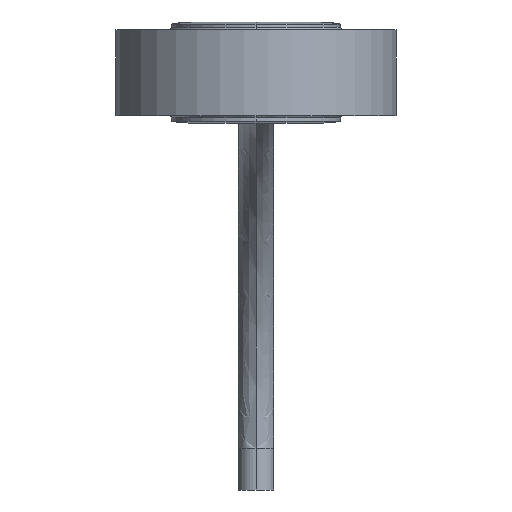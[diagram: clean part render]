
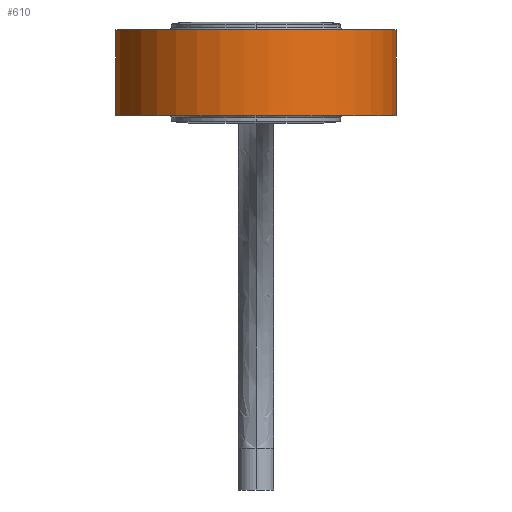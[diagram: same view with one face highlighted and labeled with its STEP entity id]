
A CAD part, front view. The second image highlights one B-rep face of the part: STEP entity #610.
In plain terms, the highlighted free-form (B-spline) face has degree [10, 1] with [11, 2] control points.
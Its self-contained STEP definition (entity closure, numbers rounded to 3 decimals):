
#49=DIRECTION('',(0.,0.,-1.));
#50=VECTOR('',#49,2.788);
#51=CARTESIAN_POINT('',(-3.25,11.344,3.438));
#52=LINE('',#51,#50);
#53=DIRECTION('',(0.,0.,-1.));
#54=VECTOR('',#53,2.788);
#55=CARTESIAN_POINT('',(3.25,11.344,3.438));
#56=LINE('',#55,#54);
#67=DIRECTION('',(0.,0.,-1.));
#68=VECTOR('',#67,2.788);
#69=CARTESIAN_POINT('',(3.25,11.344,7.85));
#70=LINE('',#69,#68);
#71=DIRECTION('',(0.,0.,-1.));
#72=VECTOR('',#71,2.788);
#73=CARTESIAN_POINT('',(-3.25,11.344,7.85));
#74=LINE('',#73,#72);
#80=DIRECTION('',(0.,0.,-1.));
#81=VECTOR('',#80,1.625);
#82=CARTESIAN_POINT('',(3.25,11.344,5.062));
#83=LINE('',#82,#81);
#84=CARTESIAN_POINT('',(0.,0.,0.65));
#85=DIRECTION('',(0.,0.,-1.));
#86=DIRECTION('',(0.275,0.961,0.));
#87=AXIS2_PLACEMENT_3D('',#84,#85,#86);
#89=DIRECTION('',(0.,0.,-1.));
#90=VECTOR('',#89,1.625);
#91=CARTESIAN_POINT('',(-3.25,11.344,5.062));
#92=LINE('',#91,#90);
#93=CARTESIAN_POINT('',(0.,0.,7.85));
#94=DIRECTION('',(0.,0.,1.));
#95=DIRECTION('',(-0.275,0.961,0.));
#96=AXIS2_PLACEMENT_3D('',#93,#94,#95);
#433=CARTESIAN_POINT('',(-3.25,11.344,0.65));
#434=CARTESIAN_POINT('',(3.25,11.344,0.65));
#435=VERTEX_POINT('',#433);
#436=VERTEX_POINT('',#434);
#437=CARTESIAN_POINT('',(-3.25,11.344,7.85));
#438=CARTESIAN_POINT('',(3.25,11.344,7.85));
#439=VERTEX_POINT('',#437);
#440=VERTEX_POINT('',#438);
#462=CARTESIAN_POINT('',(3.25,11.344,5.062));
#464=VERTEX_POINT('',#462);
#465=CARTESIAN_POINT('',(3.25,11.344,3.438));
#467=VERTEX_POINT('',#465);
#469=CARTESIAN_POINT('',(-3.25,11.344,3.438));
#470=VERTEX_POINT('',#469);
#471=CARTESIAN_POINT('',(-3.25,11.344,5.062));
#472=VERTEX_POINT('',#471);
#574=CARTESIAN_POINT('',(1.933,11.641,7.994));
#575=CARTESIAN_POINT('',(1.933,11.641,0.506));
#576=CARTESIAN_POINT('',(8.864,10.49,7.994));
#577=CARTESIAN_POINT('',(8.864,10.49,0.506));
#578=CARTESIAN_POINT('',(15.033,4.754,7.994));
#579=CARTESIAN_POINT('',(15.033,4.754,0.506));
#580=CARTESIAN_POINT('',(17.006,-5.004,7.994));
#581=CARTESIAN_POINT('',(17.006,-5.004,0.506));
#582=CARTESIAN_POINT('',(12.004,-15.288,7.994));
#583=CARTESIAN_POINT('',(12.004,-15.288,0.506));
#584=CARTESIAN_POINT('',(-0.032,-20.326,7.994));
#585=CARTESIAN_POINT('',(-0.032,-20.326,0.506));
#586=CARTESIAN_POINT('',(-11.957,-15.288,7.994));
#587=CARTESIAN_POINT('',(-11.957,-15.288,0.506));
#588=CARTESIAN_POINT('',(-17.023,-5.004,7.994));
#589=CARTESIAN_POINT('',(-17.023,-5.004,0.506));
#590=CARTESIAN_POINT('',(-15.033,4.754,7.994));
#591=CARTESIAN_POINT('',(-15.033,4.754,0.506));
#592=CARTESIAN_POINT('',(-8.864,10.49,7.994));
#593=CARTESIAN_POINT('',(-8.864,10.49,0.506));
#594=CARTESIAN_POINT('',(-1.933,11.641,7.994));
#595=CARTESIAN_POINT('',(-1.933,11.641,0.506));
#596=B_SPLINE_SURFACE_WITH_KNOTS('',10,1,((#574,#575),(#576,#577),(#578,#579),(
#580,#581),(#582,#583),(#584,#585),(#586,#587),(#588,#589),(#590,#591),(#592,
#593),(#594,#595)),.UNSPECIFIED.,.F.,.F.,.F.,(11,11),(2,2),(-6.119,
-0.165),(0.216,7.704),.UNSPECIFIED.);
#598=ORIENTED_EDGE('',*,*,#597,.T.);
#599=ORIENTED_EDGE('',*,*,#519,.T.);
#600=ORIENTED_EDGE('',*,*,#496,.T.);
#601=ORIENTED_EDGE('',*,*,#516,.F.);
#603=ORIENTED_EDGE('',*,*,#602,.F.);
#604=ORIENTED_EDGE('',*,*,#567,.F.);
#606=ORIENTED_EDGE('',*,*,#605,.T.);
#607=ORIENTED_EDGE('',*,*,#563,.T.);
#608=EDGE_LOOP('',(#598,#599,#600,#601,#603,#604,#606,#607));
#609=FACE_OUTER_BOUND('',#608,.F.);
#88=CIRCLE('',#87,11.8);
#97=CIRCLE('',#96,11.8);
#496=EDGE_CURVE('',#436,#435,#88,.T.);
#516=EDGE_CURVE('',#470,#435,#52,.T.);
#519=EDGE_CURVE('',#467,#436,#56,.T.);
#563=EDGE_CURVE('',#440,#464,#70,.T.);
#567=EDGE_CURVE('',#439,#472,#74,.T.);
#597=EDGE_CURVE('',#464,#467,#83,.T.);
#602=EDGE_CURVE('',#472,#470,#92,.T.);
#605=EDGE_CURVE('',#439,#440,#97,.T.);
#610=ADVANCED_FACE('',(#609),#596,.T.);
